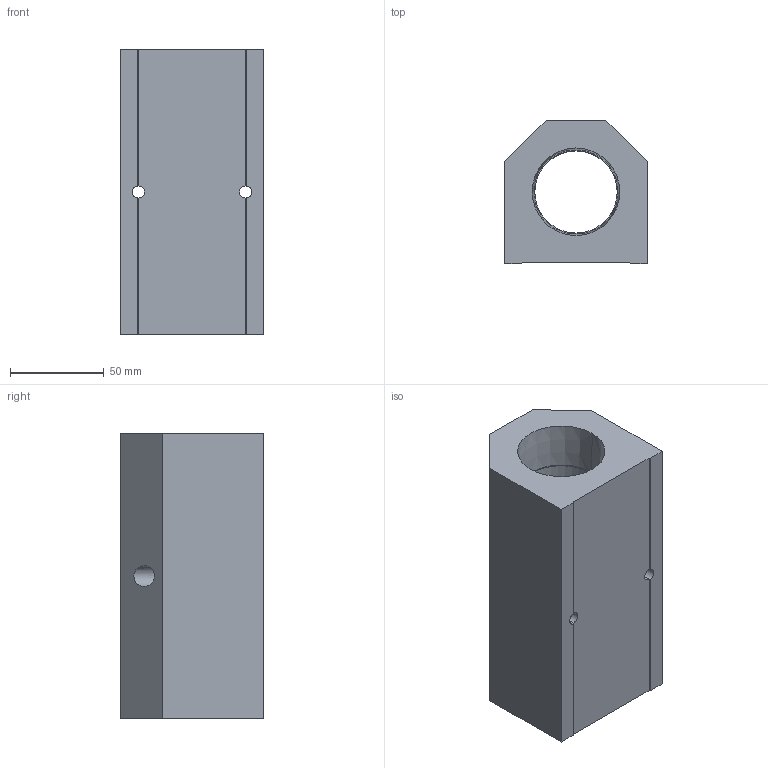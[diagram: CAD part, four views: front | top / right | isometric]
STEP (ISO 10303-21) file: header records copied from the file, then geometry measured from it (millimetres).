
FILE_DESCRIPTION (( 'STEP AP214' ), '1' );
FILE_NAME ('ALM2C-N4N24-152B.step', '2022-02-07T07:46:10', ( '' ), ( '' ), 'SwSTEP 2.0', 'SolidWorks 2020', '' );
FILE_SCHEMA (( 'AUTOMOTIVE_DESIGN' ));
Length unit declared in the file: millimetre
Products named in the file (1): ALM2C-N4N24-152B
Bounding box: 76.2 x 76.2 x 152 mm (x, y, z)
Volume: 556071.4 mm3; surface area: 74588.4 mm2
Topology: 1 solids, 1 shells, 270 faces, 713 edges, 474 vertices
Faces by surface type: plane 202, bspline 50, cylinder 10, cone 8
Entity records: 14405 total; most frequent: CARTESIAN_POINT 5402, ORIENTED_EDGE 1426, DIRECTION 1071, EDGE_CURVE 713, LINE 573, VECTOR 573, VERTEX_POINT 474, EDGE_LOOP 309
